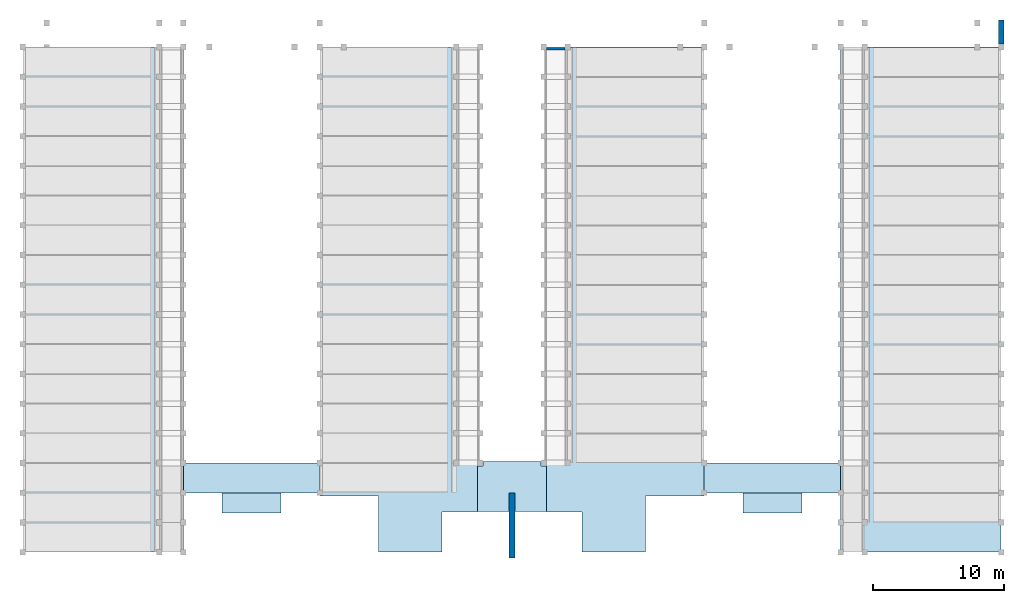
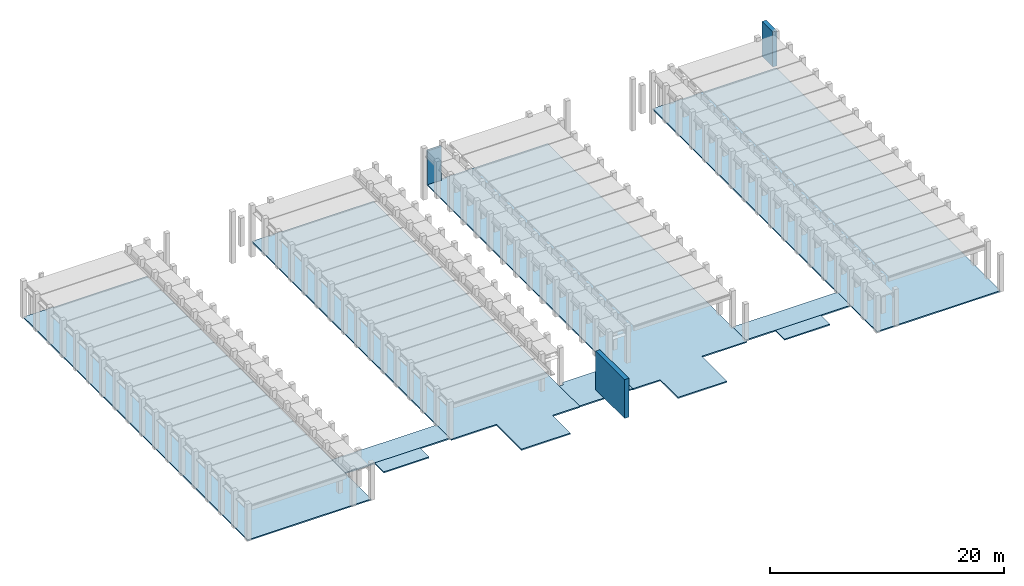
# One storey, part 18 of 21: 9 slabs, 3 walls.
"""IFC2X3 building model written with IfcOpenShell, lengths in millimetres."""

from ifc_helpers import new_model, entity, si_unit, converted_unit, derived_unit, direction, frame, frame_2d, origin, origin_2d_with_axis, place, context, subcontext, project, spatial, polyline, rectangle, outline, extrude, material, layer, layer_set, layer_usage, type_object, element, save


model = new_model("IFC2X3")

# Units and contexts
model_context = context("Model", 3, precision=0.01, world=origin(), true_north=direction((6.12303176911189e-17, 1.0)))
body_context = subcontext(model_context, "Body", "Model", "MODEL_VIEW")
ifc_project = project(units=[si_unit("LENGTHUNIT", "METRE", prefix="MILLI"), si_unit("AREAUNIT", "SQUARE_METRE"), si_unit("VOLUMEUNIT", "CUBIC_METRE"), converted_unit("PLANEANGLEUNIT", "DEGREE", entity("IfcRatioMeasure", 0.0174532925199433), si_unit("PLANEANGLEUNIT", "RADIAN"), dimensions=[0, 0, 0, 0, 0, 0, 0]), si_unit("MASSUNIT", "GRAM", prefix="KILO"), derived_unit("MASSDENSITYUNIT", [(si_unit("MASSUNIT", "GRAM", prefix="KILO"), 1), (si_unit("LENGTHUNIT", "METRE"), -3)]), derived_unit("MOMENTOFINERTIAUNIT", [(si_unit("LENGTHUNIT", "METRE"), 4)]), si_unit("TIMEUNIT", "SECOND"), si_unit("FREQUENCYUNIT", "HERTZ"), si_unit("THERMODYNAMICTEMPERATUREUNIT", "DEGREE_CELSIUS"), derived_unit("THERMALTRANSMITTANCEUNIT", [(si_unit("MASSUNIT", "GRAM", prefix="KILO"), 1), (si_unit("THERMODYNAMICTEMPERATUREUNIT", "KELVIN"), -1), (si_unit("TIMEUNIT", "SECOND"), -3)]), derived_unit("VOLUMETRICFLOWRATEUNIT", [(si_unit("LENGTHUNIT", "METRE"), 3), (si_unit("TIMEUNIT", "SECOND"), -1)]), si_unit("ELECTRICCURRENTUNIT", "AMPERE"), si_unit("ELECTRICVOLTAGEUNIT", "VOLT"), si_unit("POWERUNIT", "WATT"), si_unit("FORCEUNIT", "NEWTON", prefix="KILO"), si_unit("ILLUMINANCEUNIT", "LUX"), si_unit("LUMINOUSFLUXUNIT", "LUMEN"), si_unit("LUMINOUSINTENSITYUNIT", "CANDELA"), derived_unit("USERDEFINED", [(si_unit("MASSUNIT", "GRAM", prefix="KILO"), -1), (si_unit("LENGTHUNIT", "METRE"), -2), (si_unit("TIMEUNIT", "SECOND"), 3), (si_unit("LUMINOUSFLUXUNIT", "LUMEN"), 1)]), derived_unit("LINEARVELOCITYUNIT", [(si_unit("LENGTHUNIT", "METRE"), 1), (si_unit("TIMEUNIT", "SECOND"), -1)]), si_unit("PRESSUREUNIT", "PASCAL"), derived_unit("USERDEFINED", [(si_unit("LENGTHUNIT", "METRE"), -2), (si_unit("MASSUNIT", "GRAM", prefix="KILO"), 1), (si_unit("TIMEUNIT", "SECOND"), -2)]), derived_unit("LINEARFORCEUNIT", [(si_unit("MASSUNIT", "GRAM", prefix="KILO"), 1), (si_unit("LENGTHUNIT", "METRE"), 1), (si_unit("TIMEUNIT", "SECOND"), -2), (si_unit("LENGTHUNIT", "METRE"), -1)]), derived_unit("PLANARFORCEUNIT", [(si_unit("MASSUNIT", "GRAM", prefix="KILO"), 1), (si_unit("LENGTHUNIT", "METRE"), 1), (si_unit("TIMEUNIT", "SECOND"), -2), (si_unit("LENGTHUNIT", "METRE"), -2)])], contexts=[model_context])

# Site, building, storey
site_placement = place(None, frame((10627.5135316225, 21939.0796949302, 0.0)))
site = spatial("IfcSite", under=ifc_project, at=site_placement, Name="Default", CompositionType="ELEMENT")
building_placement = place(site_placement, origin())
building = spatial("IfcBuilding", under=site, at=building_placement, CompositionType="ELEMENT")
storey_placement = place(building_placement, frame((0.0, 0.0, 7320.0)))
storey = spatial("IfcBuildingStorey", under=building, at=storey_placement, Name="R+2", CompositionType="ELEMENT", Elevation=7320.0)

# Slabs
ifc_material_1 = material(Name="Polyurethane FoamBlue")
ifc_layer_1 = layer(ifc_material_1, 30.0)
ifc_material_2 = material(Name="Concrete, Cast-in-Place - C15")
ifc_layer_2 = layer(ifc_material_2, 100.0)
ifc_layer_set_1 = layer_set([ifc_layer_1, ifc_layer_2], Name="Floor:PlancherChauffant130Blue")
ifc_layer_usage_1 = layer_usage(ifc_layer_set_1, "AXIS3", "POSITIVE", 0.0)
slab_type_1 = type_object("IfcSlabType", Name="Floor:PlancherChauffant130Blue", PredefinedType="FLOOR", material=ifc_layer_set_1)
slab_1_placement = place(storey_placement, origin())
element("IfcSlab", 1, at=slab_1_placement, inside=storey, type_object=slab_type_1, material=ifc_layer_usage_1, Name="Floor:PlancherChauffant130Blue", ObjectType="Floor:PlancherChauffant130Blue", PredefinedType="FLOOR", context=body_context, shape_type="SweptSolid", body=[
    extrude(rectangle(XDim=38420.0, YDim=12209.9999999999, at=origin_2d_with_axis()), frame((-4522.51353162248, -2729.07969493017, 0.0), z_axis=(0.0, 0.0, -1.0), x_axis=(0.0, 1.0, 0.0)), (0.0, 0.0, 1.0), 130.0),
])
ifc_layer_usage_2 = layer_usage(ifc_layer_set_1, "AXIS3", "POSITIVE", 0.0)
slab_type_2 = type_object("IfcSlabType", Name="Floor:PlancherChauffant130Blue", PredefinedType="FLOOR", material=ifc_layer_set_1)
slab_2_placement = place(storey_placement, origin())
element("IfcSlab", 2, at=slab_2_placement, inside=storey, type_object=slab_type_2, material=ifc_layer_usage_2, Name="Floor:PlancherChauffant130Blue", ObjectType="Floor:PlancherChauffant130Blue", PredefinedType="FLOOR", context=body_context, shape_type="SweptSolid", body=[
    extrude(outline(polyline([(-8395.42066227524, -5558.19297177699), (26981.8068874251, -5558.19297177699), (26981.8068874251, 6436.80702822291), (-7148.1931125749, 6436.80702822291), (-7148.1931125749, 1979.21891968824), (-11438.1931125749, 1979.21891968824), (-11438.193112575, -2857.83297613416), (-8395.42066227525, -2857.83297613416), (-8395.42066227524, -5558.19297177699)])), frame((34755.6794401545, -10500.8865823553, 0.0), z_axis=(0.0, 0.0, -1.0), x_axis=(0.0, 1.0, 0.0)), (0.0, 0.0, 1.0), 130.0),
])
ifc_layer_usage_3 = layer_usage(ifc_layer_set_1, "AXIS3", "POSITIVE", 0.0)
slab_type_3 = type_object("IfcSlabType", Name="Floor:PlancherChauffant130Blue", PredefinedType="FLOOR", material=ifc_layer_set_1)
slab_3_placement = place(storey_placement, origin())
element("IfcSlab", 3, at=slab_3_placement, inside=storey, type_object=slab_type_3, material=ifc_layer_usage_3, Name="Floor:PlancherChauffant130Blue", ObjectType="Floor:PlancherChauffant130Blue", PredefinedType="FLOOR", context=body_context, shape_type="SweptSolid", body=[
    extrude(rectangle(XDim=2259.99999999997, YDim=10380.0000000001, at=frame_2d((-1.13686837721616e-12, 0.0), x_axis=(1.0, 0.0))), frame((6772.48646837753, -16289.0796949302, 0.0), z_axis=(0.0, 0.0, -1.0), x_axis=(0.0, 1.0, 0.0)), (0.0, 0.0, 1.0), 130.0),
])
ifc_layer_usage_4 = layer_usage(ifc_layer_set_1, "AXIS3", "POSITIVE", 0.0)
slab_type_4 = type_object("IfcSlabType", Name="Floor:PlancherChauffant130Blue", PredefinedType="FLOOR", material=ifc_layer_set_1)
slab_4_placement = place(storey_placement, origin())
element("IfcSlab", 4, at=slab_4_placement, inside=storey, type_object=slab_type_4, material=ifc_layer_usage_4, Name="Floor:PlancherChauffant130Blue", ObjectType="Floor:PlancherChauffant130Blue", PredefinedType="FLOOR", context=body_context, shape_type="SweptSolid", body=[
    extrude(rectangle(XDim=2260.00000000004, YDim=10380.0, at=frame_2d((-1.02318153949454e-12, 0.0), x_axis=(1.0, 0.0))), frame((46382.4864683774, -16289.0796949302, 0.0), z_axis=(0.0, 0.0, -1.0), x_axis=(0.0, 1.0, 0.0)), (0.0, 0.0, 1.0), 130.0),
])
ifc_layer_usage_5 = layer_usage(ifc_layer_set_1, "AXIS3", "POSITIVE", 0.0)
slab_type_5 = type_object("IfcSlabType", Name="Floor:PlancherChauffant130Blue", PredefinedType="FLOOR", material=ifc_layer_set_1)
slab_5_placement = place(storey_placement, origin())
element("IfcSlab", 5, at=slab_5_placement, inside=storey, type_object=slab_type_5, material=ifc_layer_usage_5, Name="Floor:PlancherChauffant130Blue", ObjectType="Floor:PlancherChauffant130Blue", PredefinedType="FLOOR", context=body_context, shape_type="SweptSolid", body=[
    extrude(rectangle(XDim=1551.72056237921, YDim=4475.00532578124, at=frame_2d((-2.1600499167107e-12, 0.0), x_axis=(1.0, 0.0))), frame((6767.56751412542, -18194.9399761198, 0.0), z_axis=(0.0, 0.0, -1.0), x_axis=(0.0, 1.0, 0.0)), (0.0, 0.0, 1.0), 130.0),
])
ifc_layer_usage_6 = layer_usage(ifc_layer_set_1, "AXIS3", "POSITIVE", 0.0)
slab_type_6 = type_object("IfcSlabType", Name="Floor:PlancherChauffant130Blue", PredefinedType="FLOOR", material=ifc_layer_set_1)
slab_6_placement = place(storey_placement, origin())
element("IfcSlab", 6, at=slab_6_placement, inside=storey, type_object=slab_type_6, material=ifc_layer_usage_6, Name="Floor:PlancherChauffant130Blue", ObjectType="Floor:PlancherChauffant130Blue", PredefinedType="FLOOR", context=body_context, shape_type="SweptSolid", body=[
    extrude(rectangle(XDim=1551.72056237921, YDim=4475.00532578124, at=frame_2d((-2.1600499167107e-12, 0.0), x_axis=(1.0, 0.0))), frame((46387.4054226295, -18194.9399761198, 0.0), z_axis=(0.0, 0.0, -1.0), x_axis=(0.0, 1.0, 0.0)), (0.0, 0.0, 1.0), 130.0),
])
ifc_layer_usage_7 = layer_usage(ifc_layer_set_1, "AXIS3", "POSITIVE", 0.0)
slab_type_7 = type_object("IfcSlabType", Name="Floor:PlancherChauffant130Blue", PredefinedType="FLOOR", material=ifc_layer_set_1)
slab_7_placement = place(storey_placement, origin())
element("IfcSlab", 7, at=slab_7_placement, inside=storey, type_object=slab_type_7, material=ifc_layer_usage_7, Name="Floor:PlancherChauffant130Blue", ObjectType="Floor:PlancherChauffant130Blue", PredefinedType="FLOOR", context=body_context, shape_type="SweptSolid", body=[
    extrude(rectangle(XDim=38420.0000000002, YDim=12209.9999999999, at=origin_2d_with_axis()), frame((57677.4864683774, -2729.07969493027, 0.0), z_axis=(0.0, 0.0, -1.0), x_axis=(0.0, 1.0, 0.0)), (0.0, 0.0, 1.0), 130.0),
])
ifc_layer_usage_8 = layer_usage(ifc_layer_set_1, "AXIS3", "POSITIVE", 0.0)
slab_type_8 = type_object("IfcSlabType", Name="Floor:PlancherChauffant130Blue", PredefinedType="FLOOR", material=ifc_layer_set_1)
slab_8_placement = place(storey_placement, origin())
element("IfcSlab", 8, at=slab_8_placement, inside=storey, type_object=slab_type_8, material=ifc_layer_usage_8, Name="Floor:PlancherChauffant130Blue", ObjectType="Floor:PlancherChauffant130Blue", PredefinedType="FLOOR", context=body_context, shape_type="SweptSolid", body=[
    extrude(outline(polyline([(-2686.67066120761, -2620.0), (785.556888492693, -2620.0), (785.556888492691, -2190.0), (1115.55688422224, -2190.0), (1115.55688422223, 2190.0), (785.556888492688, 2190.0), (785.556888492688, 2620.0), (-2686.67066120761, 2620.0), (-2686.67066120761, -2620.0)])), frame((26577.4864683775, -16159.636583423, 0.0), z_axis=(0.0, 0.0, -1.0), x_axis=(0.0, 1.0, 0.0)), (0.0, 0.0, 1.0), 130.0),
])
ifc_layer_usage_9 = layer_usage(ifc_layer_set_1, "AXIS3", "POSITIVE", 0.0)
slab_type_9 = type_object("IfcSlabType", Name="Floor:PlancherChauffant130Blue", PredefinedType="FLOOR", material=ifc_layer_set_1)
slab_9_placement = place(storey_placement, origin())
element("IfcSlab", 9, at=slab_9_placement, inside=storey, type_object=slab_type_9, material=ifc_layer_usage_9, Name="Floor:PlancherChauffant130Blue", ObjectType="Floor:PlancherChauffant130Blue", PredefinedType="FLOOR", context=body_context, shape_type="SweptSolid", body=[
    extrude(outline(polyline([(-7148.1931125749, -6436.80702822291), (26981.8068874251, -6436.80702822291), (26981.8068874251, 5558.19297177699), (-8395.42066227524, 5558.19297177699), (-8395.42066227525, 2857.83297613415), (-11438.193112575, 2857.83297613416), (-11438.1931125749, -1979.21891968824), (-7148.1931125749, -1979.21891968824), (-7148.1931125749, -6436.80702822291)])), frame((18399.2934966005, -10500.8865823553, 0.0), z_axis=(0.0, 0.0, -1.0), x_axis=(0.0, 1.0, 0.0)), (0.0, 0.0, 1.0), 130.0),
])

# Walls
ifc_material_3 = material(Name="Concrete - Cast-in-Place Concrete")
ifc_layer_3 = layer(ifc_material_3, 200.0)
ifc_layer_set_2 = layer_set([ifc_layer_3], Name="Basic Wall:Mur S/SOL 20")
ifc_layer_usage_10 = layer_usage(ifc_layer_set_2, "AXIS2", "POSITIVE", -100.0)
wall_type_1 = type_object("IfcWallType", Name="Basic Wall:Mur S/SOL 20", PredefinedType="STANDARD", material=ifc_layer_set_2)
wall_1_placement = place(storey_placement, frame((29195.4864683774, 16365.9203050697, 0.0)))
element("IfcWallStandardCase", 10, at=wall_1_placement, inside=storey, type_object=wall_type_1, material=ifc_layer_usage_10, Name="Basic Wall:Mur S/SOL 20", ObjectType="Basic Wall:Mur S/SOL 20", context=body_context, shape_type="SweptSolid", body=[
    extrude(rectangle(XDim=1404.0, YDim=199.999999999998, at=frame_2d((702.000000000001, 0.0), x_axis=(-1.0, 0.0))), origin(), (0.0, 0.0, 1.0), 3520.0),
])
ifc_material_4 = material(Name="Concrete, Precast Smooth, Light Grey")
ifc_layer_4 = layer(ifc_material_4, 430.0)
ifc_layer_set_3 = layer_set([ifc_layer_4], Name="Basic Wall:Mur Facade Fille 0 430mm")
ifc_layer_usage_11 = layer_usage(ifc_layer_set_3, "AXIS2", "NEGATIVE", 215.0)
wall_type_2 = type_object("IfcWallType", Name="Basic Wall:Mur Facade Fille 0 430mm", PredefinedType="STANDARD", material=ifc_layer_set_3)
wall_2_placement = place(storey_placement, frame((26577.4864683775, -17419.0796949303, 0.0), z_axis=(0.0, 0.0, 1.0), x_axis=(0.0, -1.0, 0.0)))
element("IfcWallStandardCase", 11, at=wall_2_placement, inside=storey, type_object=wall_type_2, material=ifc_layer_usage_11, Name="Basic Wall:Mur Facade Fille 0 430mm", ObjectType="Basic Wall:Mur Facade Fille 0 430mm", context=body_context, shape_type="SweptSolid", body=[
    extrude(rectangle(XDim=4960.37050963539, YDim=429.999999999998, at=frame_2d((2480.18525481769, 0.0), x_axis=(-1.0, 0.0))), origin(), (0.0, 0.0, 1.0), 4050.0),
])
ifc_layer_usage_12 = layer_usage(ifc_layer_set_3, "AXIS2", "POSITIVE", -215.0)
wall_3_placement = place(storey_placement, frame((63782.4864683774, 16695.9203050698, 0.0), z_axis=(0.0, 0.0, 1.0), x_axis=(0.0, 1.0, 0.0)))
element("IfcWallStandardCase", 12, at=wall_3_placement, inside=storey, type_object=wall_type_2, material=ifc_layer_usage_12, Name="Basic Wall:Mur Facade Fille 0 430mm", ObjectType="Basic Wall:Mur Facade Fille 0 430mm", context=body_context, shape_type="SweptSolid", body=[
    extrude(rectangle(XDim=1843.33162842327, YDim=430.000000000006, at=frame_2d((921.665814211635, -1.08002495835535e-12), x_axis=(-1.0, 0.0))), origin(), (0.0, 0.0, 1.0), 3660.0),
])

save(model, "model.ifc")
